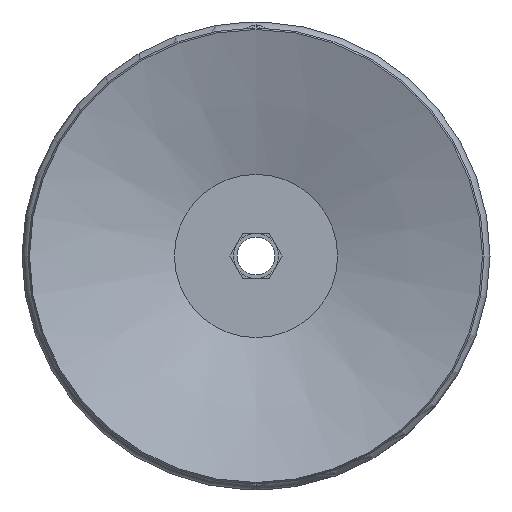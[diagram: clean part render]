
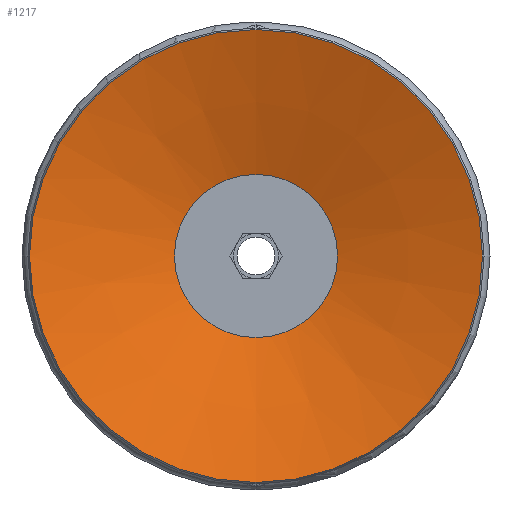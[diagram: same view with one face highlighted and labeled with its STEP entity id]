
A CAD part, front view. The second image highlights one B-rep face of the part: STEP entity #1217.
In plain terms, the highlighted conical face has half-angle 71.075 degrees and reference radius 15 mm.
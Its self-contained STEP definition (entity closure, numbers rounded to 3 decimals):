
#1217=ADVANCED_FACE('',(#3023,#3024),#3025,.F.);
#3023=FACE_BOUND('',#5514,.T.);
#3024=FACE_OUTER_BOUND('',#5515,.T.);
#3025=CONICAL_SURFACE('',#5516,15.0,1.24);
#5514=EDGE_LOOP('',(#9252));
#5515=EDGE_LOOP('',(#9253));
#5516=AXIS2_PLACEMENT_3D('',#9254,#9255,#9256);
#9252=ORIENTED_EDGE('',*,*,#16246,.T.);
#9253=ORIENTED_EDGE('',*,*,#16247,.T.);
#9254=CARTESIAN_POINT('',(0.,0.,0.0));
#9255=DIRECTION('',(0.0,0.,-1.0));
#9256=DIRECTION('',(0.0,1.0,0.));
#16246=EDGE_CURVE('',#19932,#19932,#19933,.T.);
#16247=EDGE_CURVE('',#19934,#19934,#19935,.T.);
#19932=VERTEX_POINT('',#26453);
#19933=CIRCLE('',#26454,5.4);
#19934=VERTEX_POINT('',#26455);
#19935=CIRCLE('',#26456,15.0);
#26453=CARTESIAN_POINT('',(-5.4,0.,3.291));
#26454=AXIS2_PLACEMENT_3D('',#32047,#32048,#32049);
#26455=CARTESIAN_POINT('',(0.,15.0,0.));
#26456=AXIS2_PLACEMENT_3D('',#32050,#32051,#32052);
#32047=CARTESIAN_POINT('',(0.,0.,3.291));
#32048=DIRECTION('',(0.,0.0,1.0));
#32049=DIRECTION('',(-1.0,0.0,0.));
#32050=CARTESIAN_POINT('',(0.,0.,0.0));
#32051=DIRECTION('',(0.0,0.,-1.0));
#32052=DIRECTION('',(0.0,1.0,0.));
